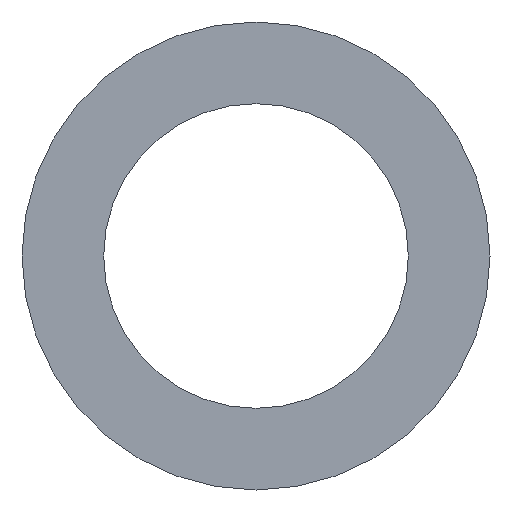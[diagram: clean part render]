
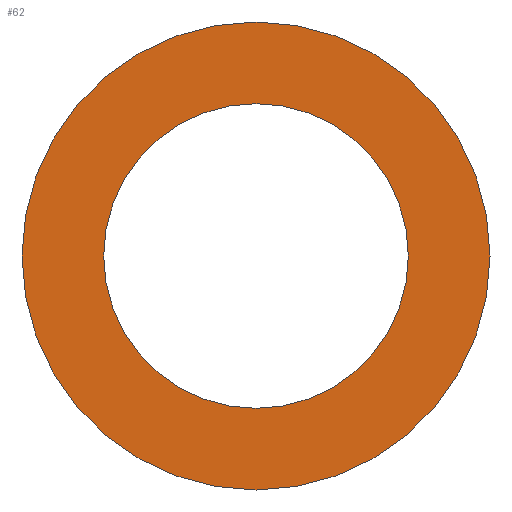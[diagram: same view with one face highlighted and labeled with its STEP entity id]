
A CAD part, front view. The second image highlights one B-rep face of the part: STEP entity #62.
In plain terms, the highlighted planar face has unit normal (0, -1, 0).
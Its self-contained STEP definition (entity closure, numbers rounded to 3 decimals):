
#20=PLANE('',#83);
#26=ORIENTED_EDGE('',*,*,#30,.T.);
#27=ORIENTED_EDGE('',*,*,#32,.F.);
#30=EDGE_CURVE('',#34,#34,#38,.T.);
#32=EDGE_CURVE('',#36,#36,#40,.T.);
#34=VERTEX_POINT('',#106);
#36=VERTEX_POINT('',#111);
#38=CIRCLE('',#78,62.5);
#40=CIRCLE('',#81,96.);
#46=EDGE_LOOP('',(#26));
#47=EDGE_LOOP('',(#27));
#54=FACE_BOUND('',#46,.T.);
#55=FACE_BOUND('',#47,.T.);
#62=ADVANCED_FACE('',(#54,#55),#20,.F.);
#78=AXIS2_PLACEMENT_3D('',#105,#89,#90);
#81=AXIS2_PLACEMENT_3D('',#110,#95,#96);
#83=AXIS2_PLACEMENT_3D('',#114,#99,#100);
#89=DIRECTION('',(0.,1.,0.));
#90=DIRECTION('',(1.,0.,0.));
#95=DIRECTION('',(0.,1.,0.));
#96=DIRECTION('',(1.,0.,0.));
#99=DIRECTION('',(0.,1.,0.));
#100=DIRECTION('',(0.,0.,1.));
#105=CARTESIAN_POINT('',(0.,-1.5,0.));
#106=CARTESIAN_POINT('',(62.5,-1.5,0.));
#110=CARTESIAN_POINT('',(0.,-1.5,0.));
#111=CARTESIAN_POINT('',(96.,-1.5,0.));
#114=CARTESIAN_POINT('',(0.,-1.5,0.));
